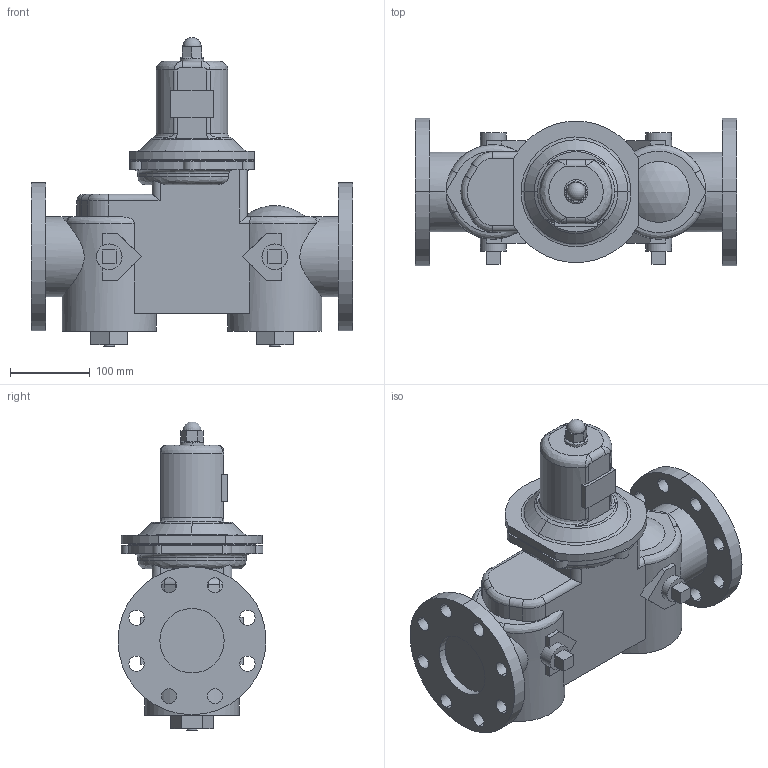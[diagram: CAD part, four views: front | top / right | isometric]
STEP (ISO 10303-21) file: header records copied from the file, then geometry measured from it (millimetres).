
FILE_DESCRIPTION( (''), '2;1');
FILE_NAME ('PC1027.4860.GD-27BP 80A_17516.stp','2025-07-25T16:47:07',(''),(''),'spGate 19.8.4 (****-****-****-****)','','');
FILE_SCHEMA (('AUTOMOTIVE_DESIGN'));
Length unit declared in the file: millimetre
Products named in the file (2): Assembly; GD-27BP 80A
Assembly tree (1 placements, depth 2):
  Assembly
    GD-27BP 80A
Bounding box: 402 x 185 x 385.92 mm (x, y, z)
Volume: 8063585.9 mm3; surface area: 433653.4 mm2
Topology: 1 solids, 1 shells, 268 faces, 712 edges, 457 vertices
Faces by surface type: plane 124, cylinder 104, bspline 38, sphere 2
Entity records: 17149 total; most frequent: CARTESIAN_POINT 5118, ORIENTED_EDGE 1412, DIRECTION 1286, COLOUR_RGB 975, PRESENTATION_STYLE_ASSIGNMENT 975, STYLED_ITEM 975, EDGE_CURVE 706, DRAUGHTING_PRE_DEFINED_CURVE_FONT 706
